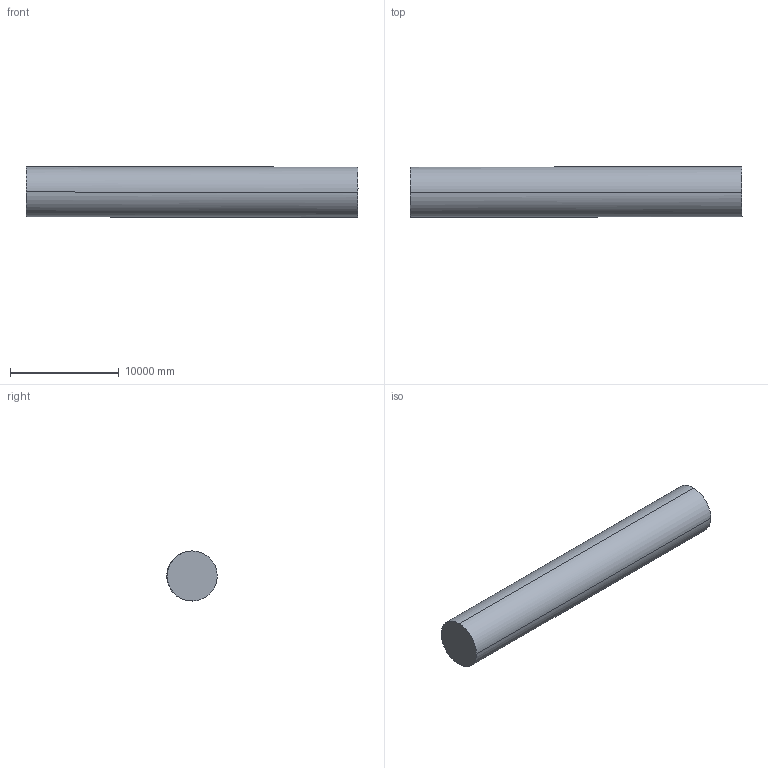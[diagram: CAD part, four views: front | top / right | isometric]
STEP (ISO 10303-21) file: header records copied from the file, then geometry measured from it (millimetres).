
FILE_DESCRIPTION(/* description */ (''),/* implementation_level */ '2;1');
FILE_NAME(/* name */ 'NTF_Diffusor_Constant_Cross_Section_Extension_2023_10_02.stp',/* time_stamp */ '2023-10-02T14:24:41-04:00',/* author */ (''),/* organization */ (''),/* preprocessor_version */ 'ST-DEVELOPER v16.7',/* originating_system */ 'SIEMENS PLM Software NX 12.0',/* authorisation */ '');
FILE_SCHEMA (('AUTOMOTIVE_DESIGN { 1 0 10303 214 3 1 1 1 }'));
Length unit declared in the file: inch
Products named in the file (1): sbry3178F678wn2i
Bounding box: 30485.55 x 4632.4 x 4600.86 mm (x, y, z)
Volume: 505672821748.8 mm3; surface area: 473276423.7 mm2
Topology: 1 solids, 1 shells, 6 faces, 12 edges, 8 vertices
Faces by surface type: bspline 5, plane 1
Entity records: 202 total; most frequent: CARTESIAN_POINT 82, ORIENTED_EDGE 24, EDGE_CURVE 12, VERTEX_POINT 8, DIRECTION 8, ADVANCED_FACE 6, FACE_OUTER_BOUND 6, EDGE_LOOP 6
